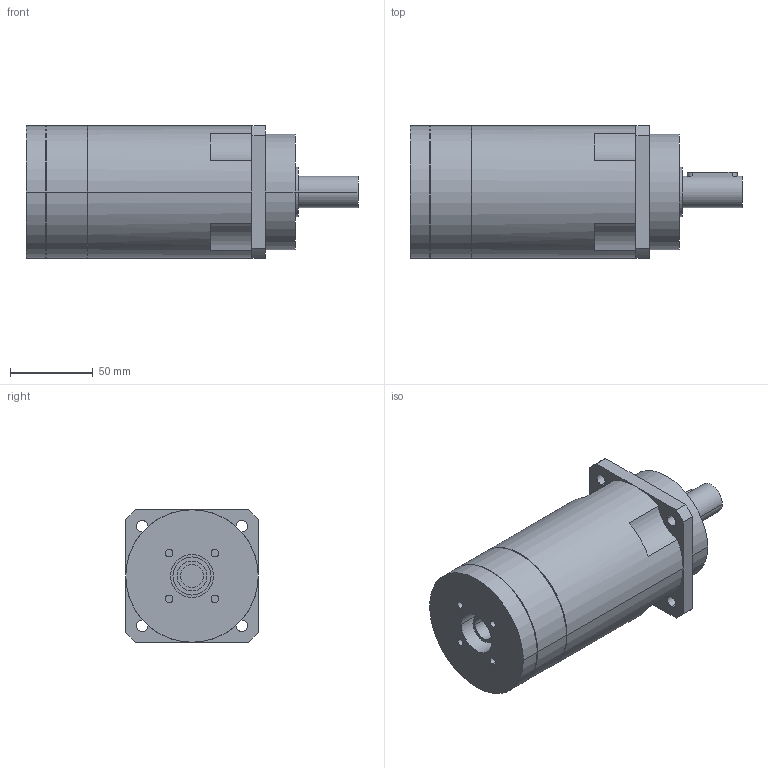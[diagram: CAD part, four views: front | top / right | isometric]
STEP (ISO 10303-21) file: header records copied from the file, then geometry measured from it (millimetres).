
FILE_DESCRIPTION(('CoCreate Modeling STEP Export'),'2;1');
FILE_NAME('GPR100_ig-48-64-80-100-120-144-180-216_19_B5_14_P09.stp','2014-08-26T11:55:05',(''),(''),'CoCreate Modeling STEP processor for AP214 (Solid Model)','CoCreate Modeling 16.00C 25-Feb-2009 (C) Parametric Technology GmbH','');
FILE_SCHEMA(('AUTOMOTIVE_DESIGN { 1 0 10303 214 1 1 1 1 }'));
Length unit declared in the file: millimetre
Products named in the file (2): GPR100_ig-48-64-80-100-120-144-180-216_19_B5_14_P09
Assembly tree (1 placements, depth 2):
  GPR100_ig-48-64-80-100-120-144-180-216_19_B5_14_P09
    GPR100_ig-48-64-80-100-120-144-180-216_19_B5_14_P09
Bounding box: 200.4 x 80 x 80 mm (x, y, z)
Volume: 797120.3 mm3; surface area: 61098 mm2
Topology: 1 solids, 1 shells, 96 faces, 251 edges, 173 vertices
Faces by surface type: cylinder 56, plane 34, cone 6
Entity records: 2614 total; most frequent: ORIENTED_EDGE 498, CARTESIAN_POINT 469, DIRECTION 376, EDGE_CURVE 249, VERTEX_POINT 173, AXIS2_PLACEMENT_3D 144, EDGE_LOOP 122, FACE_OUTER_BOUND 96
